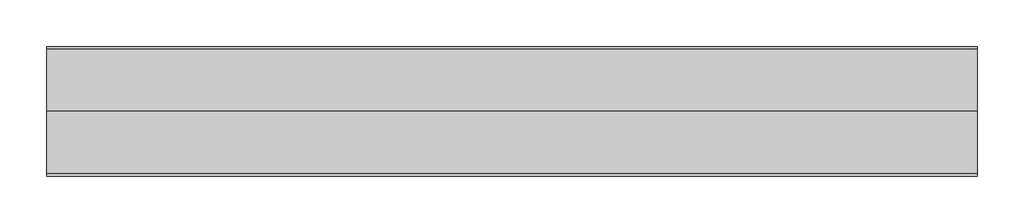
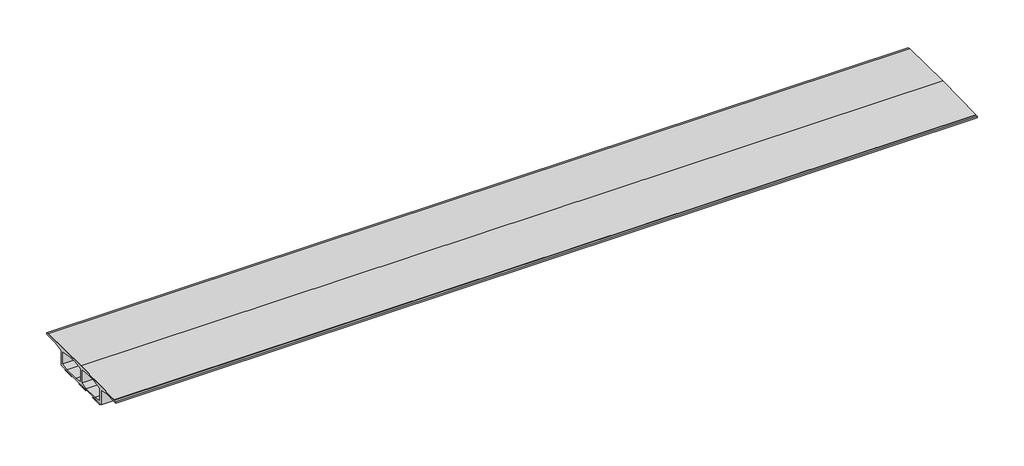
# One storey: 12 proxies, 2 beams.
"""IFC4 building model written with IfcOpenShell, lengths in millimetres."""

from ifc_helpers import new_model, si_unit, origin, place, context, project, spatial, transform, mapped, element, save
from components import beam_02307f55, beam_c8aa096b, generic_models_d03a6028

model = new_model("IFC4")

# Units and contexts
model_context = context("Model", 3, world=origin())
ifc_project = project(units=[si_unit("LENGTHUNIT", "METRE", prefix="MILLI")], contexts=[model_context])

# Site, building, storey
site = spatial("IfcSite", under=ifc_project)
building = spatial("IfcBuilding", under=site)
storey = spatial("IfcBuildingStorey", under=building, Name="도로레벨", Elevation=15030.0)

# Beams
placement = place(None, origin())
beam_shape = beam_02307f55(model_context)
element("IfcBeam", 1, ObjectType="상부 본체 : 상부 본체", at=placement, inside=storey, context=model_context, shape_type="MappedRepresentation", body=[
    mapped(beam_shape, transform((63219.633441, 448.8136521, 15030.0), x_axis=(1.0, 0.0, 0.0), y_axis=(0.0, 1.0, 0.0), z_axis=(0.0, 0.0, 1.0))),
])
beam_2_shape = beam_c8aa096b(model_context)
element("IfcBeam", 2, ObjectType="포장층 : 포장층", at=placement, inside=storey, context=model_context, shape_type="MappedRepresentation", body=[
    mapped(beam_2_shape, transform((63219.633441, 448.8136521, 15030.0), x_axis=(1.0, 0.0, 0.0), y_axis=(0.0, 1.0, 0.0), z_axis=(0.0, 0.0, 1.0))),
])

# Proxies
generic_models_shape = generic_models_d03a6028(model_context)
element("IfcBuildingElementProxy", 3, Name="교좌장치(면기반) : 교좌장치(면기반)", ObjectType="교좌장치(면기반) : 교좌장치(면기반)", at=placement, inside=storey, context=model_context, shape_type="MappedRepresentation", body=[
    mapped(generic_models_shape, transform((-10580.366559, 448.8136521, 11000.0), x_axis=(1.0, 0.0, 0.0), y_axis=(0.0, 1.0, 0.0), z_axis=(0.0, 0.0, 1.0))),
])
element("IfcBuildingElementProxy", 4, Name="교좌장치(면기반) : 교좌장치(면기반)", ObjectType="교좌장치(면기반) : 교좌장치(면기반)", at=placement, inside=storey, context=model_context, shape_type="MappedRepresentation", body=[
    mapped(generic_models_shape, transform((-10580.366559, 4648.8136521, 11000.0), x_axis=(1.0, 0.0, 0.0), y_axis=(0.0, 1.0, 0.0), z_axis=(0.0, 0.0, 1.0))),
])
element("IfcBuildingElementProxy", 5, Name="교좌장치(면기반) : 교좌장치(면기반)", ObjectType="교좌장치(면기반) : 교좌장치(면기반)", at=placement, inside=storey, context=model_context, shape_type="MappedRepresentation", body=[
    mapped(generic_models_shape, transform((-10580.366559, -3751.1863479, 11000.0), x_axis=(1.0, 0.0, 0.0), y_axis=(0.0, 1.0, 0.0), z_axis=(0.0, 0.0, 1.0))),
])
element("IfcBuildingElementProxy", 6, Name="교좌장치(면기반) : 교좌장치(면기반)", ObjectType="교좌장치(면기반) : 교좌장치(면기반)", at=placement, inside=storey, context=model_context, shape_type="MappedRepresentation", body=[
    mapped(generic_models_shape, transform((137019.633441, 448.8136521, 11000.0), x_axis=(1.0, 0.0, 0.0), y_axis=(0.0, 1.0, 0.0), z_axis=(0.0, 0.0, 1.0))),
])
element("IfcBuildingElementProxy", 7, Name="교좌장치(면기반) : 교좌장치(면기반)", ObjectType="교좌장치(면기반) : 교좌장치(면기반)", at=placement, inside=storey, context=model_context, shape_type="MappedRepresentation", body=[
    mapped(generic_models_shape, transform((137019.633441, -3751.1863479, 11000.0), x_axis=(1.0, 0.0, 0.0), y_axis=(0.0, 1.0, 0.0), z_axis=(0.0, 0.0, 1.0))),
])
element("IfcBuildingElementProxy", 8, Name="교좌장치(면기반) : 교좌장치(면기반)", ObjectType="교좌장치(면기반) : 교좌장치(면기반)", at=placement, inside=storey, context=model_context, shape_type="MappedRepresentation", body=[
    mapped(generic_models_shape, transform((137019.633441, 4648.8136521, 11000.0), x_axis=(1.0, 0.0, 0.0), y_axis=(0.0, 1.0, 0.0), z_axis=(0.0, 0.0, 1.0))),
])
element("IfcBuildingElementProxy", 9, Name="교좌장치(면기반) : 교좌장치(면기반)", ObjectType="교좌장치(면기반) : 교좌장치(면기반)", at=placement, inside=storey, context=model_context, shape_type="MappedRepresentation", body=[
    mapped(generic_models_shape, transform((38219.633441, 448.8136521, 11000.0), x_axis=(1.0, 0.0, 0.0), y_axis=(0.0, 1.0, 0.0), z_axis=(0.0, 0.0, 1.0))),
])
element("IfcBuildingElementProxy", 10, Name="교좌장치(면기반) : 교좌장치(면기반)", ObjectType="교좌장치(면기반) : 교좌장치(면기반)", at=placement, inside=storey, context=model_context, shape_type="MappedRepresentation", body=[
    mapped(generic_models_shape, transform((38219.633441, 4648.8136521, 11000.0), x_axis=(1.0, 0.0, 0.0), y_axis=(0.0, 1.0, 0.0), z_axis=(0.0, 0.0, 1.0))),
])
element("IfcBuildingElementProxy", 11, Name="교좌장치(면기반) : 교좌장치(면기반)", ObjectType="교좌장치(면기반) : 교좌장치(면기반)", at=placement, inside=storey, context=model_context, shape_type="MappedRepresentation", body=[
    mapped(generic_models_shape, transform((38219.633441, -3751.1863479, 11000.0), x_axis=(1.0, 0.0, 0.0), y_axis=(0.0, 1.0, 0.0), z_axis=(0.0, 0.0, 1.0))),
])
element("IfcBuildingElementProxy", 12, Name="교좌장치(면기반) : 교좌장치(면기반)", ObjectType="교좌장치(면기반) : 교좌장치(면기반)", at=placement, inside=storey, context=model_context, shape_type="MappedRepresentation", body=[
    mapped(generic_models_shape, transform((88219.633441, 448.8136521, 11000.0), x_axis=(1.0, 0.0, 0.0), y_axis=(0.0, 1.0, 0.0), z_axis=(0.0, 0.0, 1.0))),
])
element("IfcBuildingElementProxy", 13, Name="교좌장치(면기반) : 교좌장치(면기반)", ObjectType="교좌장치(면기반) : 교좌장치(면기반)", at=placement, inside=storey, context=model_context, shape_type="MappedRepresentation", body=[
    mapped(generic_models_shape, transform((88219.633441, 4648.8136521, 11000.0), x_axis=(1.0, 0.0, 0.0), y_axis=(0.0, 1.0, 0.0), z_axis=(0.0, 0.0, 1.0))),
])
element("IfcBuildingElementProxy", 14, Name="교좌장치(면기반) : 교좌장치(면기반)", ObjectType="교좌장치(면기반) : 교좌장치(면기반)", at=placement, inside=storey, context=model_context, shape_type="MappedRepresentation", body=[
    mapped(generic_models_shape, transform((88219.633441, -3751.1863479, 11000.0), x_axis=(1.0, 0.0, 0.0), y_axis=(0.0, 1.0, 0.0), z_axis=(0.0, 0.0, 1.0))),
])

save(model, "model.ifc")
